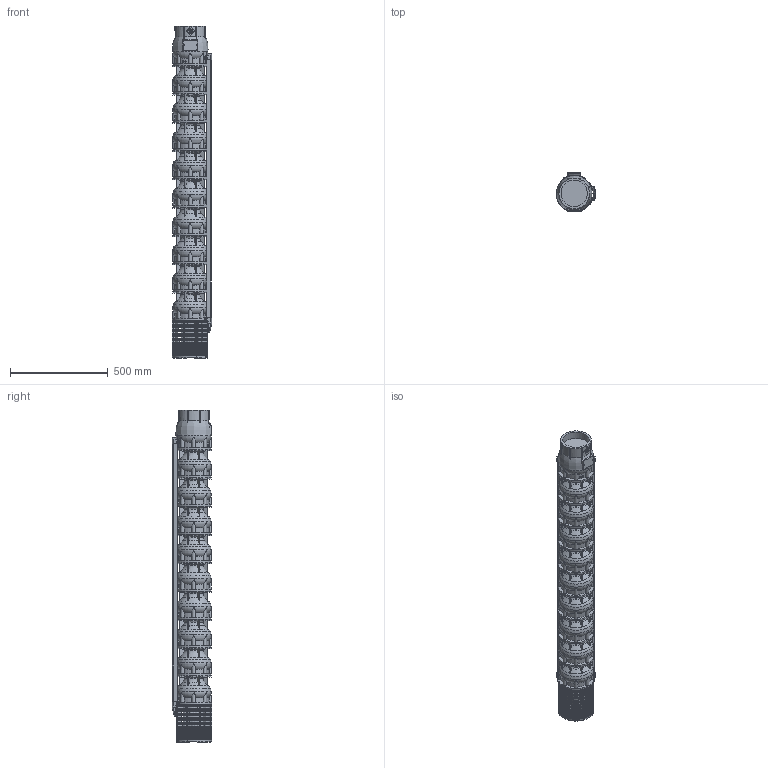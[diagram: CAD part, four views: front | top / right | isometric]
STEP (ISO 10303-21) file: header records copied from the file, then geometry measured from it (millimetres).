
FILE_DESCRIPTION(/* description */ ('Unknown'),/* implementation_level */ '2;1');
FILE_NAME(/* name */ 'VSI134-9_WR_M8-50_SLE',/* time_stamp */ '2023-09-14T15:02:10+02:00',/* author */ ('Unknown'),/* organization */ ('Unknown'),/* preprocessor_version */ 'ST-DEVELOPER v18.102',/* originating_system */ 'Solid Edge',/* authorisation */ 'Unknown');
FILE_SCHEMA (('AUTOMOTIVE_DESIGN {1 0 10303 214 3 1 1}'));
Products named in the file (11): VSI134-9_WR_M8-50_SLE; VSI134_testata; VSI134_diffusore; VSI134_supporto_8×8; VSI134_filtro_A; VSI134_filtro_B; VSI134_terminale_top_copricavo_basso; VSI134_terminale_bottom_copricavo_basso; LOW 134-9; M5X8_UNI7687; VSI134_giunto_8×8
Assembly tree (32 placements, depth 2):
  VSI134-9_WR_M8-50_SLE
    VSI134_testata
    VSI134_diffusore  x9
    VSI134_supporto_8×8
    VSI134_filtro_A
    VSI134_filtro_B
    VSI134_terminale_top_copricavo_basso  x2
    VSI134_terminale_bottom_copricavo_basso  x2
    LOW 134-9  x2
    M5X8_UNI7687  x12
    VSI134_giunto_8×8
Bounding box: 201.57 x 202.09 x 1702 mm (x, y, z)
Volume: 30575721.4 mm3; surface area: 2616918.5 mm2
Topology: 71 solids, 73 shells, 4137 faces, 11669 edges, 7783 vertices
Faces by surface type: plane 3021, cylinder 564, torus 443, cone 64, bspline 31, sphere 14
Full cylindrical faces by diameter (mm): 2.4 x2, 3 x2, 4.2 x16, 5 x12, 5.5 x8, 26 x1, 44 x1, 69 x1, 74 x1, 98 x1, 135.472 x1, 157 x1, 182 x10
Entity records: 85569 total; most frequent: CARTESIAN_POINT 18365, ORIENTED_EDGE 14056, DIRECTION 13494, EDGE_CURVE 7028, VERTEX_POINT 4730, AXIS2_PLACEMENT_3D 4598, LINE 4298, VECTOR 4298
